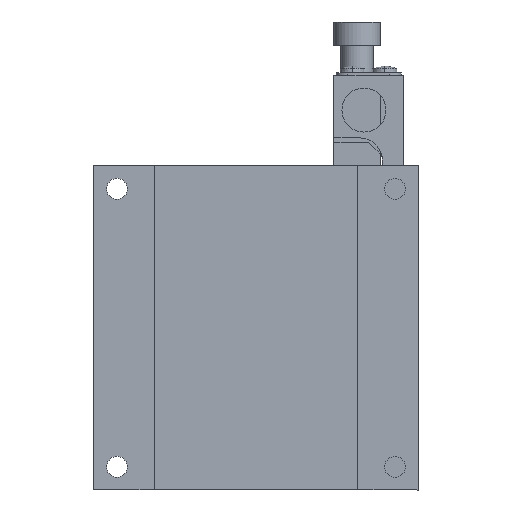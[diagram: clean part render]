
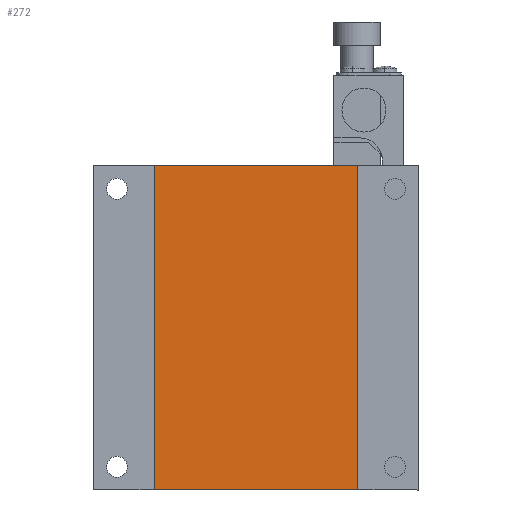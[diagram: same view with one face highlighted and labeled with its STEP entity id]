
A CAD part, front view. The second image highlights one B-rep face of the part: STEP entity #272.
In plain terms, the highlighted planar face has unit normal (0, -1, 0).
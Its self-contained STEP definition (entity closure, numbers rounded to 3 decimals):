
#18 = VERTEX_POINT ( 'NONE', #3429 ) ;
#21 = VERTEX_POINT ( 'NONE', #3424 ) ;
#23 = EDGE_CURVE ( 'NONE', #21, #24, #3423, .T. ) ;
#24 = VERTEX_POINT ( 'NONE', #3419 ) ;
#28 = VERTEX_POINT ( 'NONE', #3743 ) ;
#45 = EDGE_CURVE ( 'NONE', #18, #28, #3863, .T. ) ;
#269 = EDGE_CURVE ( 'NONE', #21, #18, #4077, .T. ) ;
#272 = ADVANCED_FACE ( 'NONE', ( #4073 ), #4072, .F. ) ;
#273 = EDGE_LOOP ( 'NONE', ( #274, #275, #441, #350 ) ) ;
#274 = ORIENTED_EDGE ( 'NONE', *, *, #45, .T. ) ;
#275 = ORIENTED_EDGE ( 'NONE', *, *, #276, .F. ) ;
#276 = EDGE_CURVE ( 'NONE', #24, #28, #4067, .T. ) ;
#350 = ORIENTED_EDGE ( 'NONE', *, *, #269, .T. ) ;
#441 = ORIENTED_EDGE ( 'NONE', *, *, #23, .F. ) ;
#3419 = CARTESIAN_POINT ( 'NONE',  ( -22., 0.5, -35. ) ) ;
#3420 = DIRECTION ( 'NONE',  ( -1., 0., 0. ) ) ;
#3421 = VECTOR ( 'NONE', #3420, 1000. ) ;
#3422 = CARTESIAN_POINT ( 'NONE',  ( 22., 0.5, -35. ) ) ;
#3423 = LINE ( 'NONE', #3422, #3421 ) ;
#3424 = CARTESIAN_POINT ( 'NONE',  ( 22., 0.5, -35. ) ) ;
#3429 = CARTESIAN_POINT ( 'NONE',  ( 22., 0.5, 35. ) ) ;
#3743 = CARTESIAN_POINT ( 'NONE',  ( -22., 0.5, 35. ) ) ;
#3860 = DIRECTION ( 'NONE',  ( -1., 0., 0. ) ) ;
#3861 = VECTOR ( 'NONE', #3860, 1000. ) ;
#3862 = CARTESIAN_POINT ( 'NONE',  ( 22., 0.5, 35. ) ) ;
#3863 = LINE ( 'NONE', #3862, #3861 ) ;
#4064 = DIRECTION ( 'NONE',  ( 0., 0., 1. ) ) ;
#4065 = VECTOR ( 'NONE', #4064, 1000. ) ;
#4066 = CARTESIAN_POINT ( 'NONE',  ( -22., 0.5, -35. ) ) ;
#4067 = LINE ( 'NONE', #4066, #4065 ) ;
#4068 = DIRECTION ( 'NONE',  ( 0., 0., -1. ) ) ;
#4069 = DIRECTION ( 'NONE',  ( 0., 1., 0. ) ) ;
#4070 = CARTESIAN_POINT ( 'NONE',  ( 22., 0.5, -35. ) ) ;
#4071 = AXIS2_PLACEMENT_3D ( 'NONE', #4070, #4069, #4068 ) ;
#4072 = PLANE ( 'NONE',  #4071 ) ;
#4073 = FACE_OUTER_BOUND ( 'NONE', #273, .T. ) ;
#4074 = DIRECTION ( 'NONE',  ( 0., 0., 1. ) ) ;
#4075 = VECTOR ( 'NONE', #4074, 1000. ) ;
#4076 = CARTESIAN_POINT ( 'NONE',  ( 22., 0.5, -35. ) ) ;
#4077 = LINE ( 'NONE', #4076, #4075 ) ;
